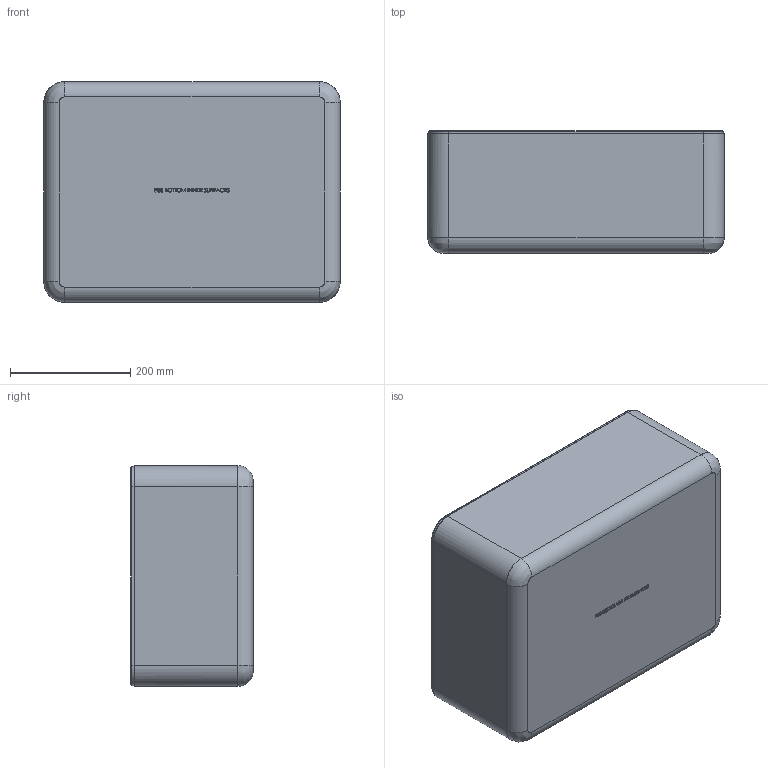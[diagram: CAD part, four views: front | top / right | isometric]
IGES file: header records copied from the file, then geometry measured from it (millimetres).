
Start section: SolidWorks IGES file using analytic representation for surfaces
Global section: file name: C:\Working Folder\918 933 acc panel\933\Inside Surfaces\933_Bottom_INNER SURFACES.IGS; native system: SolidWorks 2015; preprocessor: SolidWorks 2015; author: MKeighan; date: 160504.141407; units: inch
Bounding box: 492.75 x 203.49 x 367.02 mm (x, y, z)
Surface area: 952755.7 mm2 (no closed solid volume)
Topology: 0 solids, 0 shells, 977 faces, 12432 edges, 12425 vertices
Faces by surface type: bspline 797, revolution 180
